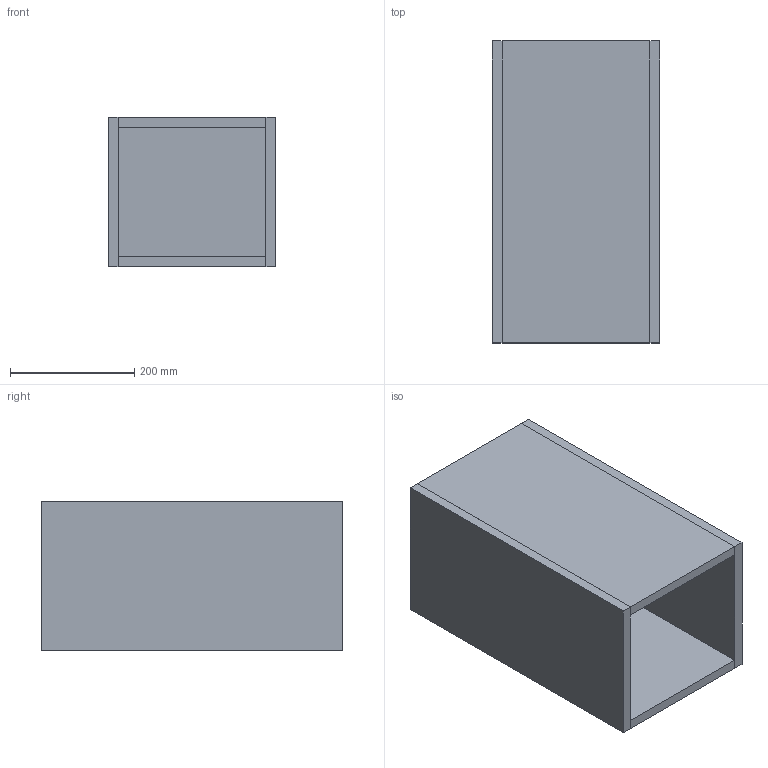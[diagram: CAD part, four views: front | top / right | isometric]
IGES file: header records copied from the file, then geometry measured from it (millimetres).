
Start section: Data from Parasolid IGES Translator 19.0.9, Copyright(c) 2006 Siemens PL M Software. All Rights Reserved.
Global section: file name: noorth-SI-H 24 D 51 W 27_8315.igs; native system: By Siemens PLM Incorporated; preprocessor: XPlus GENERIC/IGES 19.0.9; author: Noname; organization: Noname; date: 20200530.121349; units: metre
Bounding box: 270.01 x 486.06 x 240 mm (x, y, z)
Volume: 7575406.7 mm3; surface area: 1123589.6 mm2
Topology: 5 solids, 5 shells, 30 faces, 60 edges, 40 vertices
Faces by surface type: plane 30
